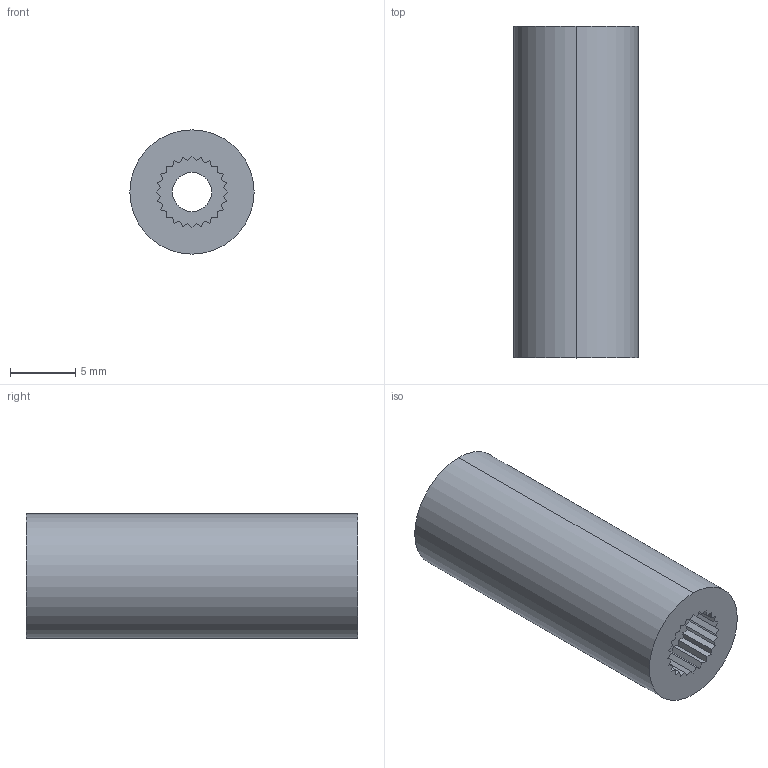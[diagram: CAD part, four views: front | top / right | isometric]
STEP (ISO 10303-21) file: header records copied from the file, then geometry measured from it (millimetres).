
FILE_DESCRIPTION (( 'STEP AP203' ), '1' );
FILE_NAME ('525140.STEP', '2015-02-05T17:27:10', ( 'Kyle' ), ( 'Microsoft' ), 'SwSTEP 2.0', 'SolidWorks 2014', '' );
FILE_SCHEMA (( 'CONFIG_CONTROL_DESIGN' ));
Length unit declared in the file: inch
Products named in the file (1): 525140
Bounding box: 9.52 x 25.4 x 9.52 mm (x, y, z)
Volume: 1066.8 mm3; surface area: 1389.2 mm2
Topology: 1 solids, 1 shells, 58 faces, 162 edges, 108 vertices
Faces by surface type: plane 52, cylinder 6
Entity records: 1921 total; most frequent: CARTESIAN_POINT 329, ORIENTED_EDGE 324, DIRECTION 292, EDGE_CURVE 162, LINE 150, VECTOR 150, VERTEX_POINT 108, AXIS2_PLACEMENT_3D 71
